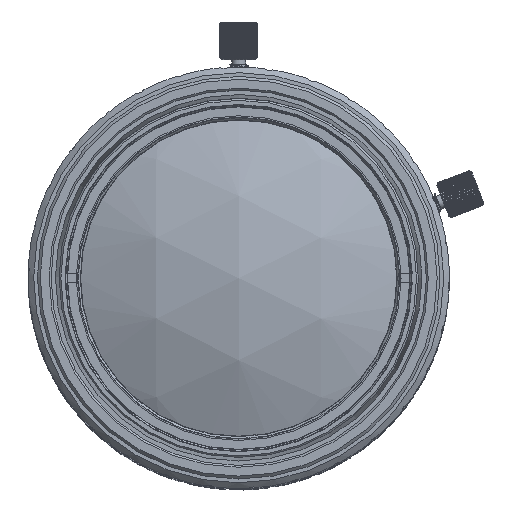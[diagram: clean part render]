
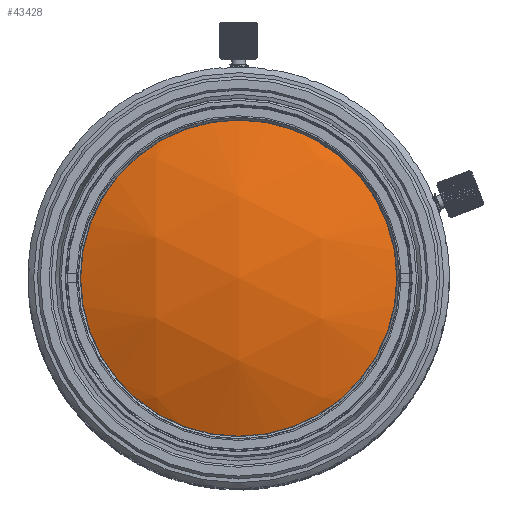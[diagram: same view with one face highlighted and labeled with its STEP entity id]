
A CAD part, top view. The second image highlights one B-rep face of the part: STEP entity #43428.
In plain terms, the highlighted spherical face has radius 40.203 mm.
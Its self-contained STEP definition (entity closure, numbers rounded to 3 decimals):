
#843 = CIRCLE ( 'NONE', #7133, 17.1 ) ;
#2439 = FACE_OUTER_BOUND ( 'NONE', #14188, .T. ) ;
#7133 = AXIS2_PLACEMENT_3D ( 'NONE', #50157, #26152, #59396 ) ;
#13422 = DIRECTION ( 'NONE',  ( -1., 0., 0. ) ) ;
#13847 = EDGE_CURVE ( 'NONE', #20211, #20211, #843, .T. ) ;
#14188 = EDGE_LOOP ( 'NONE', ( #29522 ) ) ;
#20211 = VERTEX_POINT ( 'NONE', #32355 ) ;
#26152 = DIRECTION ( 'NONE',  ( 0., 0., 1. ) ) ;
#26667 = SPHERICAL_SURFACE ( 'NONE', #52750, 40.203 ) ;
#29522 = ORIENTED_EDGE ( 'NONE', *, *, #13847, .T. ) ;
#32355 = CARTESIAN_POINT ( 'NONE',  ( 17.1, 0., 14.851 ) ) ;
#36962 = DIRECTION ( 'NONE',  ( 0., 1., 0. ) ) ;
#43428 = ADVANCED_FACE ( 'NONE', ( #2439 ), #26667, .T. ) ;
#50157 = CARTESIAN_POINT ( 'NONE',  ( 0., 0., 14.851 ) ) ;
#52750 = AXIS2_PLACEMENT_3D ( 'NONE', #55495, #13422, #36962 ) ;
#55495 = CARTESIAN_POINT ( 'NONE',  ( 0., 0., -21.534 ) ) ;
#59396 = DIRECTION ( 'NONE',  ( 1., 0., 0. ) ) ;
